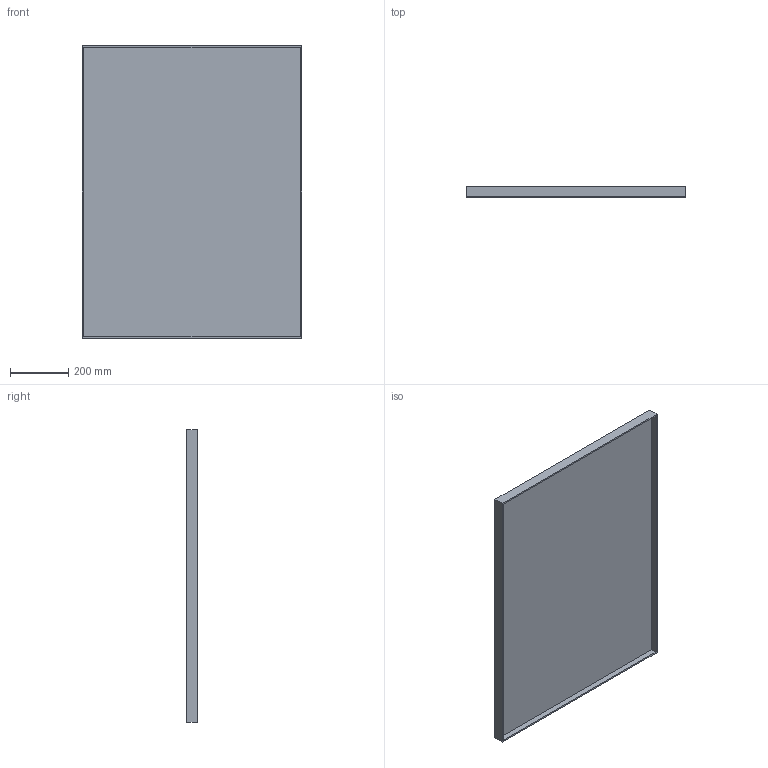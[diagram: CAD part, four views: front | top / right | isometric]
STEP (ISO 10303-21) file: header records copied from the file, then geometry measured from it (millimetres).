
FILE_DESCRIPTION(/* description */ (''),/* implementation_level */ '2;1');
FILE_NAME(/* name */ 'SAYUZP~X',/* time_stamp */ '2019-03-21T12:16:50+01:00',/* author */ (''),/* organization */ (''),/* preprocessor_version */ 'ST-DEVELOPER v16.5',/* originating_system */ '',/* authorisation */ '');
FILE_SCHEMA (('AUTOMOTIVE_DESIGN'));
Length unit declared in the file: millimetre
Products named in the file (1): Document
Bounding box: 750 x 35 x 1000 mm (x, y, z)
Volume: 11598000 mm3; surface area: 1795500 mm2
Topology: 2 solids, 2 shells, 16 faces, 38 edges, 26 vertices
Faces by surface type: plane 16
Entity records: 431 total; most frequent: CARTESIAN_POINT 125, ORIENTED_EDGE 72, B_SPLINE_CURVE_WITH_KNOTS 38, EDGE_CURVE 36, VERTEX_POINT 24, DIRECTION 22, AXIS2_PLACEMENT_3D 19, EDGE_LOOP 18
